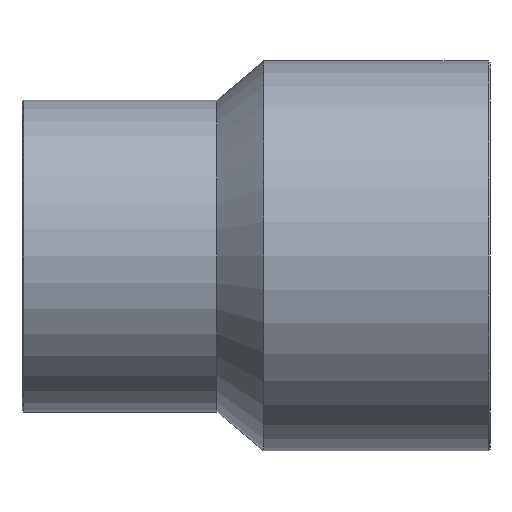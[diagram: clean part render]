
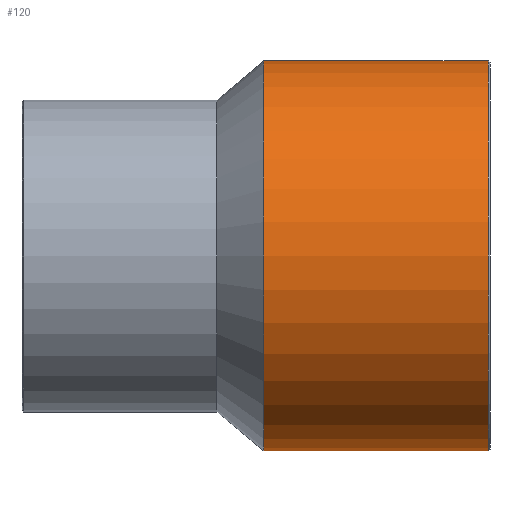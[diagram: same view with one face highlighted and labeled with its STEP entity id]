
A CAD part, front view. The second image highlights one B-rep face of the part: STEP entity #120.
In plain terms, the highlighted cylindrical face has radius 100 mm (diameter 200 mm), a full revolution.
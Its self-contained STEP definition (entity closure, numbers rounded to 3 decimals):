
#26=ORIENTED_EDGE('',*,*,#46,.T.);
#27=ORIENTED_EDGE('',*,*,#47,.F.);
#46=EDGE_CURVE('',#56,#56,#66,.T.);
#47=EDGE_CURVE('',#57,#57,#67,.T.);
#56=VERTEX_POINT('',#208);
#57=VERTEX_POINT('',#210);
#66=CIRCLE('',#144,100.);
#67=CIRCLE('',#145,100.);
#76=EDGE_LOOP('',(#26));
#77=EDGE_LOOP('',(#27));
#96=FACE_BOUND('',#76,.T.);
#97=FACE_BOUND('',#77,.T.);
#116=CYLINDRICAL_SURFACE('',#143,100.);
#120=ADVANCED_FACE('',(#96,#97),#116,.T.);
#143=AXIS2_PLACEMENT_3D('',#206,#165,#166);
#144=AXIS2_PLACEMENT_3D('',#207,#167,#168);
#145=AXIS2_PLACEMENT_3D('',#209,#169,#170);
#165=DIRECTION('',(-1.,0.,0.));
#166=DIRECTION('',(0.,0.,1.));
#167=DIRECTION('',(-1.,0.,0.));
#168=DIRECTION('',(0.,0.,1.));
#169=DIRECTION('',(-1.,0.,0.));
#170=DIRECTION('',(0.,0.,1.));
#206=CARTESIAN_POINT('',(-60.,0.,0.));
#207=CARTESIAN_POINT('',(127.,0.,0.));
#208=CARTESIAN_POINT('',(127.,0.,100.));
#209=CARTESIAN_POINT('',(12.,0.,0.));
#210=CARTESIAN_POINT('',(12.,0.,100.));
